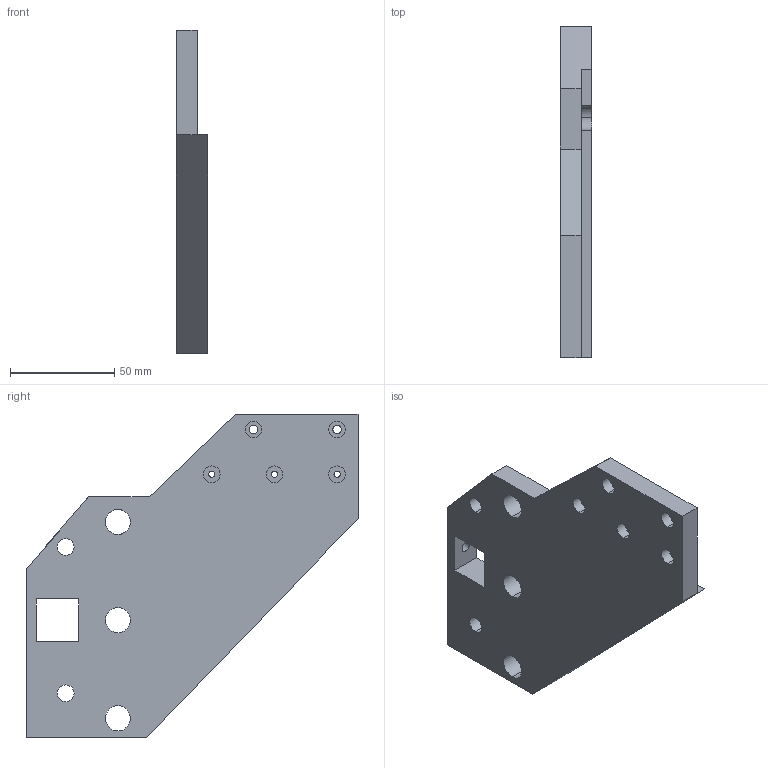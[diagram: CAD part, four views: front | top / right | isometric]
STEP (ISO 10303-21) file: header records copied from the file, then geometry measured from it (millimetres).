
FILE_DESCRIPTION (( 'STEP AP203' ), '1' );
FILE_NAME ('PORTAL bearing 1RR.STEP', '2023-07-14T06:21:57', ( '' ), ( '' ), 'SwSTEP 2.0', 'SolidWorks 2014', '' );
FILE_SCHEMA (( 'CONFIG_CONTROL_DESIGN' ));
Length unit declared in the file: millimetre
Products named in the file (1): PORTAL bearing 1RR
Bounding box: 15 x 158.93 x 154.83 mm (x, y, z)
Volume: 197689.2 mm3; surface area: 41457.9 mm2
Topology: 1 solids, 1 shells, 54 faces, 143 edges, 95 vertices
Faces by surface type: cylinder 32, plane 22
Entity records: 1830 total; most frequent: DIRECTION 319, CARTESIAN_POINT 293, ORIENTED_EDGE 286, EDGE_CURVE 143, AXIS2_PLACEMENT_3D 121, VERTEX_POINT 95, EDGE_LOOP 82, VECTOR 77
